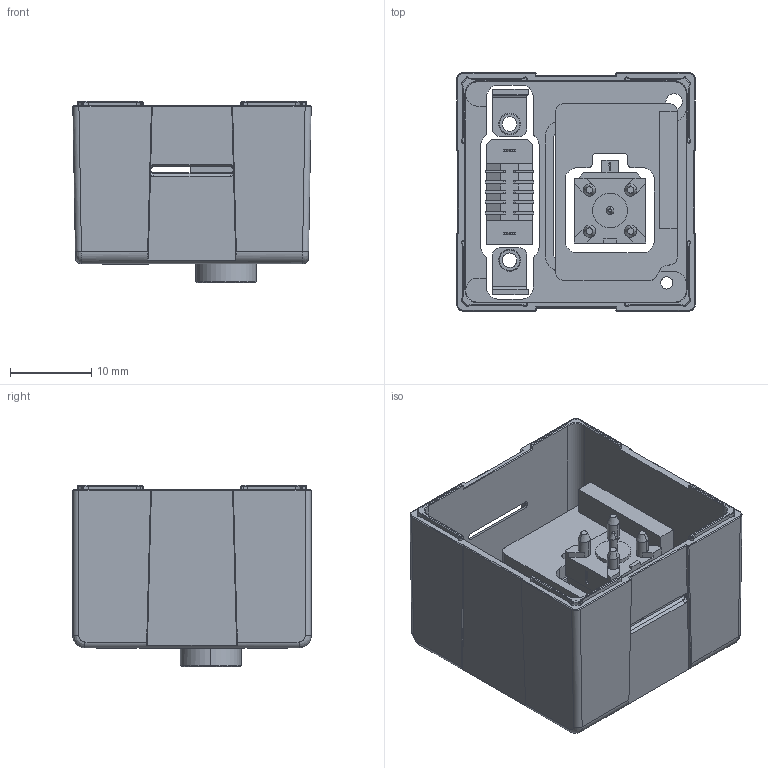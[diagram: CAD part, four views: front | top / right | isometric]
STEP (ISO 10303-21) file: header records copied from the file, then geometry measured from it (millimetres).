
FILE_DESCRIPTION (( 'STEP AP214' ), '1' );
FILE_NAME ('Alvium-FPD-Link-Cover.STEP', '2023-04-21T06:24:39', ( '' ), ( '' ), 'SwSTEP 2.0', 'SolidWorks 2021', '' );
FILE_SCHEMA (( 'AUTOMOTIVE_DESIGN' ));
Length unit declared in the file: millimetre
Products named in the file (1): Alvium-FPD-Link-Cover
Bounding box: 29.4 x 29.4 x 22.34 mm (x, y, z)
Volume: 4612.5 mm3; surface area: 8437.1 mm2
Topology: 9 solids, 9 shells, 821 faces, 2121 edges, 1338 vertices
Faces by surface type: plane 480, cylinder 214, cone 97, bspline 28, torus 2
Entity records: 35496 total; most frequent: CARTESIAN_POINT 6317, ORIENTED_EDGE 4242, DIRECTION 4091, EDGE_CURVE 2121, VECTOR 1463, LINE 1463, VERTEX_POINT 1338, AXIS2_PLACEMENT_3D 1314
